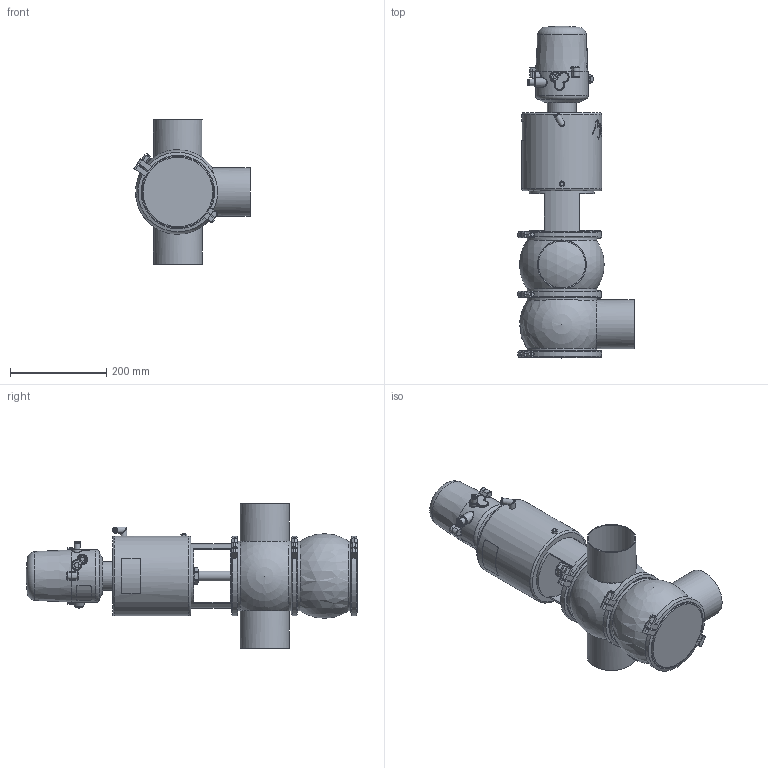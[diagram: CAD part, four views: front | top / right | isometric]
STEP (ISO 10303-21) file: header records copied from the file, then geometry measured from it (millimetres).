
FILE_DESCRIPTION (( 'STEP AP214' ), '1' );
FILE_NAME ('INNOVA M A W OD 4 T4 AS NC & C-TOP S_10.241.16.0037.STEP', '2024-08-07T07:04:01', ( '' ), ( '' ), 'SwSTEP 2.0', 'SolidWorks 2023', '' );
FILE_SCHEMA (( 'AUTOMOTIVE_DESIGN' ));
Length unit declared in the file: millimetre
Products named in the file (9): 10.240.15.0017_Estàndard; 10.240.15.0014_T4 AS P180; INNOVA M A W OD 4 T4 AS NC & C-TOP S_10.241.16.0037; 10.426.15.0001_C-TOP S - 1 EV; 10.240.15.0001_DN 100; 10.241.15.0001_DIN 100; 10.240.15.0006_OD 4"; 10.240.15.0010_DN 100; 10.240.15.0007_OD 4"
Assembly tree (10 placements, depth 2):
  INNOVA M A W OD 4 T4 AS NC & C-TOP S_10.241.16.0037
    10.240.15.0007_OD 4"
    10.240.15.0006_OD 4"
    10.240.15.0010_DN 100
    10.240.15.0014_T4 AS P180
    10.240.15.0017_Estàndard
    10.426.15.0001_C-TOP S - 1 EV
    10.240.15.0001_DN 100  x3
    10.241.15.0001_DIN 100
Bounding box: 241.26 x 689.5 x 300 mm (x, y, z)
Volume: 10851566.7 mm3; surface area: 804915.4 mm2
Topology: 11 solids, 11 shells, 1239 faces, 3023 edges, 2008 vertices
Faces by surface type: plane 443, cylinder 379, cone 211, bspline 160, torus 36, sphere 10
Full cylindrical faces by diameter (mm): 0.371 x17, 0.512 x16, 0.658 x16, 0.795 x16, 0.94 x15, 1.098 x15, 1.241 x13, 1.382 x13, 1.523 x11, 1.669 x10, 2.201 x1, 4 x2, 5.5 x2, 6 x2, 6.15 x1, 8 x8, 8.5 x1, 10 x1, 10.5 x1, 11 x2, 12.5 x3, 13 x2, 13.5 x2, 16 x1, 17 x3, 20 x3, 20.5 x1, 22 x2, 31 x1, 34.5 x3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
Entity records: 58230 total; most frequent: CARTESIAN_POINT 27837, ORIENTED_EDGE 4538, DIRECTION 3685, EDGE_CURVE 2269, VERTEX_POINT 1614, EDGE_LOOP 1575, AXIS2_PLACEMENT_3D 1514, FACE_OUTER_BOUND 1338
